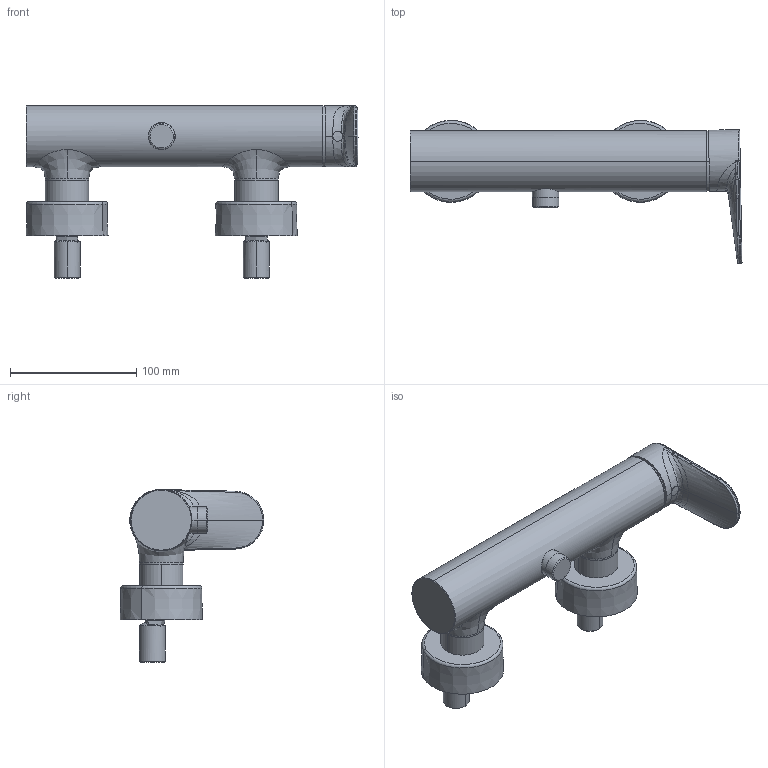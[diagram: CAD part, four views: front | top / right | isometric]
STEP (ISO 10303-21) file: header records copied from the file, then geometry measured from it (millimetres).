
FILE_DESCRIPTION (( 'STEP AP203' ), '1' );
FILE_NAME ('37450107(2025).STEP', '2025-01-22T13:12:28', ( '' ), ( '' ), 'SwSTEP 2.0', 'SolidWorks 2024', '' );
FILE_SCHEMA (( 'CONFIG_CONTROL_DESIGN' ));
Length unit declared in the file: millimetre
Products named in the file (1): 37450107(2025)
Bounding box: 263.02 x 113.69 x 137 mm (x, y, z)
Volume: 646119.7 mm3; surface area: 100765.7 mm2
Topology: 1 solids, 2 shells, 183 faces, 450 edges, 286 vertices
Faces by surface type: bspline 62, cylinder 46, plane 45, cone 26, torus 4
Entity records: 14482 total; most frequent: CARTESIAN_POINT 10529, ORIENTED_EDGE 898, DIRECTION 660, EDGE_CURVE 449, VERTEX_POINT 286, AXIS2_PLACEMENT_3D 262, EDGE_LOOP 201, ADVANCED_FACE 183
